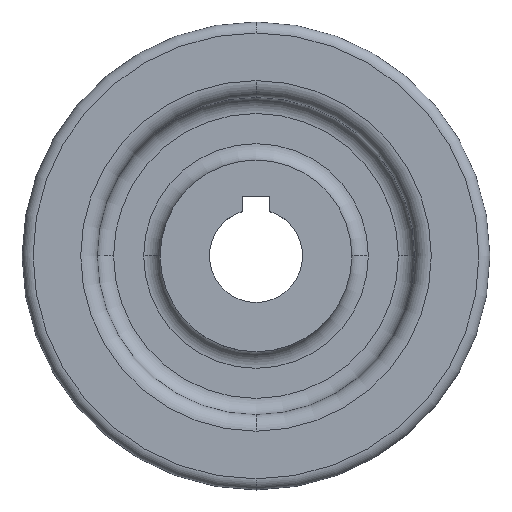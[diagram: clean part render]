
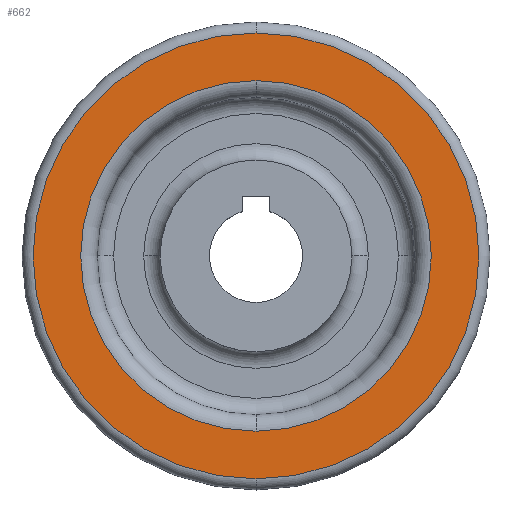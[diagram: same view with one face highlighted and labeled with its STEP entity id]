
A CAD part, top view. The second image highlights one B-rep face of the part: STEP entity #662.
In plain terms, the highlighted planar face has unit normal (0, 0, 1).
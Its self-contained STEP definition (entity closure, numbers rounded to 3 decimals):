
#9 = ORIENTED_EDGE ( 'NONE', *, *, #245, .T. ) ;
#10 = EDGE_LOOP ( 'NONE', ( #9, #841 ) ) ;
#32 = AXIS2_PLACEMENT_3D ( 'NONE', #427, #1183, #533 ) ;
#97 = DIRECTION ( 'NONE',  ( 0., 0., 1. ) ) ;
#139 = CARTESIAN_POINT ( 'NONE',  ( 0., 0., 9.5 ) ) ;
#189 = AXIS2_PLACEMENT_3D ( 'NONE', #315, #1076, #430 ) ;
#207 = ORIENTED_EDGE ( 'NONE', *, *, #1380, .T. ) ;
#231 = CARTESIAN_POINT ( 'NONE',  ( 0., 32., 9.5 ) ) ;
#245 = EDGE_CURVE ( 'NONE', #380, #343, #1042, .T. ) ;
#250 = DIRECTION ( 'NONE',  ( 0., 1., 0. ) ) ;
#315 = CARTESIAN_POINT ( 'NONE',  ( 0., 0., 9.5 ) ) ;
#343 = VERTEX_POINT ( 'NONE', #1095 ) ;
#348 = CARTESIAN_POINT ( 'NONE',  ( 0., 40.7, 9.5 ) ) ;
#365 = VERTEX_POINT ( 'NONE', #231 ) ;
#380 = VERTEX_POINT ( 'NONE', #348 ) ;
#427 = CARTESIAN_POINT ( 'NONE',  ( 0., 0., 9.5 ) ) ;
#430 = DIRECTION ( 'NONE',  ( 0., 1., 0. ) ) ;
#533 = DIRECTION ( 'NONE',  ( 0., 1., 0. ) ) ;
#542 = EDGE_LOOP ( 'NONE', ( #207, #990 ) ) ;
#622 = DIRECTION ( 'NONE',  ( 0., 0., -1. ) ) ;
#662 = ADVANCED_FACE ( 'NONE', ( #765, #1348 ), #1237, .F. ) ;
#709 = CIRCLE ( 'NONE', #32, 40.7 ) ;
#759 = CARTESIAN_POINT ( 'NONE',  ( 0., 0., 9.5 ) ) ;
#765 = FACE_BOUND ( 'NONE', #542, .T. ) ;
#784 = CIRCLE ( 'NONE', #877, 32. ) ;
#812 = AXIS2_PLACEMENT_3D ( 'NONE', #139, #903, #250 ) ;
#836 = AXIS2_PLACEMENT_3D ( 'NONE', #759, #97, #863 ) ;
#841 = ORIENTED_EDGE ( 'NONE', *, *, #1357, .T. ) ;
#863 = DIRECTION ( 'NONE',  ( 0., 1., 0. ) ) ;
#877 = AXIS2_PLACEMENT_3D ( 'NONE', #1285, #622, #1389 ) ;
#903 = DIRECTION ( 'NONE',  ( 0., 0., -1. ) ) ;
#929 = CIRCLE ( 'NONE', #189, 32. ) ;
#966 = CARTESIAN_POINT ( 'NONE',  ( 0., -32., 9.5 ) ) ;
#990 = ORIENTED_EDGE ( 'NONE', *, *, #1313, .T. ) ;
#1042 = CIRCLE ( 'NONE', #836, 40.7 ) ;
#1076 = DIRECTION ( 'NONE',  ( 0., 0., -1. ) ) ;
#1095 = CARTESIAN_POINT ( 'NONE',  ( 0., -40.7, 9.5 ) ) ;
#1183 = DIRECTION ( 'NONE',  ( 0., 0., 1. ) ) ;
#1230 = VERTEX_POINT ( 'NONE', #966 ) ;
#1237 = PLANE ( 'NONE',  #812 ) ;
#1285 = CARTESIAN_POINT ( 'NONE',  ( 0., 0., 9.5 ) ) ;
#1313 = EDGE_CURVE ( 'NONE', #1230, #365, #784, .T. ) ;
#1348 = FACE_OUTER_BOUND ( 'NONE', #10, .T. ) ;
#1357 = EDGE_CURVE ( 'NONE', #343, #380, #709, .T. ) ;
#1380 = EDGE_CURVE ( 'NONE', #365, #1230, #929, .T. ) ;
#1389 = DIRECTION ( 'NONE',  ( 0., 1., 0. ) ) ;
